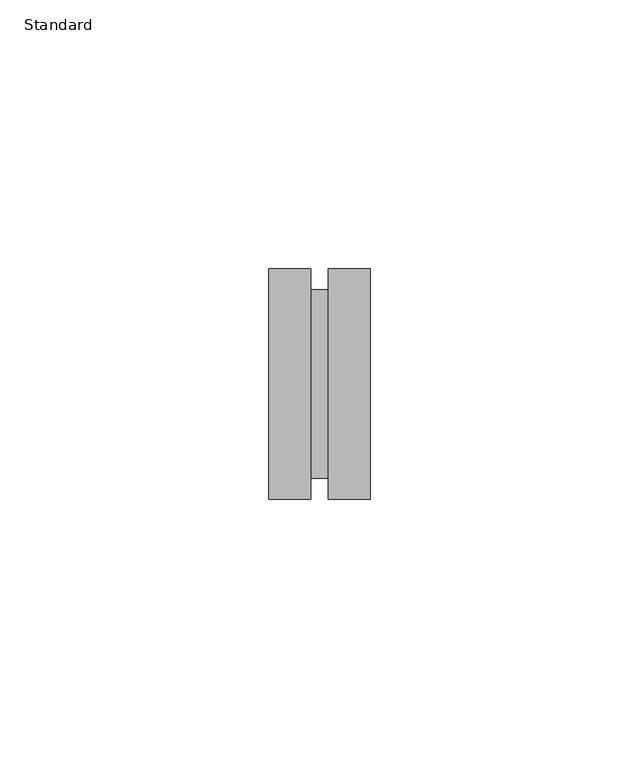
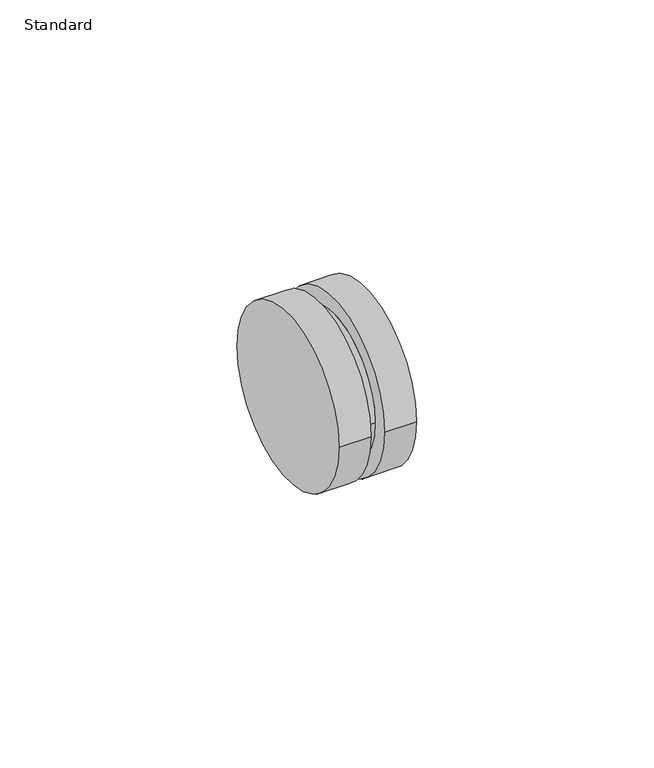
"""IFC4 building model written with IfcOpenShell, lengths in millimetres: pipe fitting geometry, Cople_Lubrizol_CPVC_FlowGuard_MX : Standard."""

import ifcopenshell
import ifcopenshell.guid

model = None  # the IFC model being written
_history = None  # IfcOwnerHistory: only IFC2X3 demands one
_inside = {}  # id of a spatial element -> (the spatial element, [elements in it])
_under = {}  # id of a project, library or spatial element -> (it, [spatial elements below it])
_declared = {}  # id of a project -> (the project, [libraries it declares])
_typed = {}  # id of a type object -> (the type object, [elements of that type])
_made_of = {}  # id of a material, layer set ... -> (it, [elements and type objects made of it])


def new_model(schema):
    """Start an empty IFC model of exactly this schema.

    Asked for "IFC4X3", IfcOpenShell would pick the latest addendum, in which some entities
    have other attributes; the version numbers below select the first issue.
    IFC2X3 requires an IfcOwnerHistory on every rooted entity: one is made here for all.
    """
    global model, _history
    if schema == "IFC4X3":
        model = ifcopenshell.file(schema_version=(4, 3, 0, 0))
    else:
        model = ifcopenshell.file(schema=schema)
    _inside.clear()
    _under.clear()
    _declared.clear()
    _typed.clear()
    _made_of.clear()
    _history = None
    if model.schema == "IFC2X3":
        org = make("IfcOrganization", Name="unknown")
        user = make(
            "IfcPersonAndOrganization",
            ThePerson=make("IfcPerson", FamilyName="unknown"),
            TheOrganization=org,
        )
        app = make(
            "IfcApplication",
            ApplicationDeveloper=org,
            Version="unknown",
            ApplicationFullName="unknown",
            ApplicationIdentifier="unknown",
        )
        _history = make(
            "IfcOwnerHistory",
            OwningUser=user,
            OwningApplication=app,
            ChangeAction="ADDED",
            CreationDate=0,
        )
    return model


def make(cls, **values):
    """One entity of the class cls with the attributes given. An attribute that is None is left unset."""
    return model.create_entity(
        cls, **{name: value for name, value in values.items() if value is not None}
    )


def rooted(cls, **values):
    """An entity with a GlobalId (a new one), such as an element, a storey or a relation."""
    return make(cls, GlobalId=ifcopenshell.guid.new(), OwnerHistory=_history, **values)


def si_unit(unit_type, name, prefix=None):
    """IfcSIUnit, for example si_unit("LENGTHUNIT", "METRE", prefix="MILLI")."""
    return make("IfcSIUnit", UnitType=unit_type, Prefix=prefix, Name=name)


def assignment(units):
    """IfcUnitAssignment: the units of a project."""
    return None if units is None else make("IfcUnitAssignment", Units=units)


def point(xyz):
    """IfcCartesianPoint."""
    return None if xyz is None else make("IfcCartesianPoint", Coordinates=xyz)


def direction(xyz):
    """IfcDirection."""
    return None if xyz is None else make("IfcDirection", DirectionRatios=xyz)


def frame(location, z_axis=None, x_axis=None):
    """IfcAxis2Placement3D, a coordinate frame: its origin and axes. An axis left out is left unset."""
    return make(
        "IfcAxis2Placement3D",
        Location=point(location),
        Axis=direction(z_axis),
        RefDirection=direction(x_axis),
    )


def origin():
    """The frame at (0, 0, 0) with its axes left unset."""
    return frame((0.0, 0.0, 0.0))


def place(relative_to, where):
    """IfcLocalPlacement: puts the frame where relative to a parent placement (None: the world)."""
    return make(
        "IfcLocalPlacement", PlacementRelTo=relative_to, RelativePlacement=where
    )


def context(
    kind, dimensions, precision=None, world=None, true_north=None, identifier=None
):
    """IfcGeometricRepresentationContext, for example the 3D "Model" context."""
    return make(
        "IfcGeometricRepresentationContext",
        ContextIdentifier=identifier,
        ContextType=kind,
        CoordinateSpaceDimension=dimensions,
        Precision=precision,
        WorldCoordinateSystem=world,
        TrueNorth=true_north,
    )


def project(units=None, contexts=None):
    """IfcProject with its units and contexts."""
    return rooted(
        "IfcProject",
        Name="project",
        RepresentationContexts=contexts,
        UnitsInContext=assignment(units),
    )


def spatial(cls, under=None, at=None, **own):
    """A site, building, storey or space (cls), placed at a placement, below another one or the project."""
    s = rooted(cls, ObjectPlacement=at, **own)
    if under is not None:
        _under.setdefault(under.id(), (under, []))[1].append(s)
    return s


def circle_curve(where, radius):
    """IfcCircle in the frame where."""
    return make("IfcCircle", Position=where, Radius=radius)


def shape(context_of_items, identifier, shape_type, items):
    """IfcShapeRepresentation: the items that make up one representation, for example the "Body"."""
    return make(
        "IfcShapeRepresentation",
        ContextOfItems=context_of_items,
        RepresentationIdentifier=identifier,
        RepresentationType=shape_type,
        Items=items,
    )


def source(mapping_origin, context_of_items, identifier, shape_type, items):
    """IfcRepresentationMap: a shape defined once, which mapped items show again and again."""
    return make(
        "IfcRepresentationMap",
        MappingOrigin=mapping_origin,
        MappedRepresentation=shape(context_of_items, identifier, shape_type, items),
    )


def transform(
    local_origin,
    x_axis=None,
    y_axis=None,
    z_axis=None,
    scale=None,
    scale2=None,
    scale3=None,
    uniform=True,
):
    """IfcCartesianTransformationOperator3D, or its non-uniform kind. x_axis, y_axis, z_axis: its Axis1, 2, 3."""
    if uniform:
        return make(
            "IfcCartesianTransformationOperator3D",
            Axis1=direction(x_axis),
            Axis2=direction(y_axis),
            LocalOrigin=point(local_origin),
            Scale=scale,
            Axis3=direction(z_axis),
        )
    return make(
        "IfcCartesianTransformationOperator3DnonUniform",
        Axis1=direction(x_axis),
        Axis2=direction(y_axis),
        LocalOrigin=point(local_origin),
        Scale=scale,
        Axis3=direction(z_axis),
        Scale2=scale2,
        Scale3=scale3,
    )


def mapped(mapping_source, mapping_target):
    """IfcMappedItem: shows the shape of a source again, moved by a transform."""
    return make(
        "IfcMappedItem", MappingSource=mapping_source, MappingTarget=mapping_target
    )


def made_of(thing, what):
    """Note that an element or type object is made of a material, layer set ...; save() writes the relation."""
    if what is not None:
        _made_of.setdefault(what.id(), (what, []))[1].append(thing)
    return thing


def element(
    cls,
    number,
    at=None,
    inside=None,
    cuts=None,
    type_object=None,
    material=None,
    context=None,
    identifier="Body",
    shape_type=None,
    held_by="IfcProductDefinitionShape",
    body=None,
    shapes=None,
    **own,
):
    """One element of the class cls, such as IfcWall. Its Tag is "e" and its number.

    at: its placement. inside: the storey or other place that contains it. cuts: it is an
    opening in that element (IfcRelVoidsElement). A single representation is given by context,
    identifier, shape_type and body (its items); several are given by shapes. held_by: the class
    of the entity that holds the representations. save() writes the other relations.
    """
    e = rooted(cls, Tag="e%d" % number, ObjectPlacement=at, **own)
    if body is not None:
        shapes = [shape(context, identifier, shape_type, body)]
    if shapes is not None:
        e.Representation = make(held_by, Representations=shapes)
    if inside is not None:
        _inside.setdefault(inside.id(), (inside, []))[1].append(e)
    if cuts is not None:
        rooted(
            "IfcRelVoidsElement", RelatingBuildingElement=cuts, RelatedOpeningElement=e
        )
    if type_object is not None:
        _typed.setdefault(type_object.id(), (type_object, []))[1].append(e)
    return made_of(e, material)


def aggregate(whole, parts):
    """IfcRelAggregates: a whole, such as a stair, and the parts it consists of."""
    return rooted("IfcRelAggregates", RelatingObject=whole, RelatedObjects=parts)


def save(model, path):
    """Write the relations noted so far, then the file.

    IfcRelAggregates (storeys below a building ...), IfcRelContainedInSpatialStructure (elements
    in a storey), IfcRelDefinesByType, IfcRelAssociatesMaterial and IfcRelDeclares: one each for
    every whole, place, type object, material and project.
    """
    for whole, parts in _under.values():
        aggregate(whole, parts)
    for where, things in _inside.values():
        rooted(
            "IfcRelContainedInSpatialStructure",
            RelatedElements=things,
            RelatingStructure=where,
        )
    for kind, things in _typed.values():
        rooted("IfcRelDefinesByType", RelatedObjects=things, RelatingType=kind)
    for what, things in _made_of.values():
        rooted("IfcRelAssociatesMaterial", RelatedObjects=things, RelatingMaterial=what)
    for by, libraries in _declared.values():
        rooted("IfcRelDeclares", RelatingContext=by, RelatedDefinitions=libraries)
    model.write(path)


def plane_surface(at):
    """IfcPlane: the flat surface through the origin of the frame at, square to its z axis."""
    return make("IfcPlane", Position=at)


def cylinder_surface(at, radius):
    """IfcCylindricalSurface: all points at the distance radius from the z axis of the frame at."""
    return make("IfcCylindricalSurface", Position=at, Radius=radius)


def advanced_brep(points, edges, surfaces, faces):
    """IfcAdvancedBrep: a solid bounded by faces that lie on surfaces and meet in shared edges.

    An edge is (start, end): straight between two places in points (the first is 0);
    or (start, end, curve); or (start, end, curve, False) where it runs against its curve.
    A face is (place in surfaces, loops), or (place, loops, False) where it looks against
    its surface's normal. A loop lists edges by number (the first is 1), with a minus sign
    where the edge is run from its end to its start. The first loop is the outer one.
    """
    corners = [point(p) for p in points]
    vertices = [make("IfcVertexPoint", VertexGeometry=c) for c in corners]
    made = []
    for start, end, *more in edges:
        made.append(
            make(
                "IfcEdgeCurve",
                EdgeStart=vertices[start],
                EdgeEnd=vertices[end],
                EdgeGeometry=more[0] if more else make("IfcPolyline", Points=[corners[start], corners[end]]),
                SameSense=more[1] if len(more) > 1 else True,
            )
        )
    hull = []
    for where, loops, *sense in faces:
        bounds = []
        for j, loop in enumerate(loops):
            ring = [make("IfcOrientedEdge", EdgeElement=made[abs(k) - 1], Orientation=k > 0) for k in loop]
            bounds.append(
                make(
                    "IfcFaceOuterBound" if j == 0 else "IfcFaceBound",
                    Bound=make("IfcEdgeLoop", EdgeList=ring),
                    Orientation=True,
                )
            )
        hull.append(make("IfcAdvancedFace", Bounds=bounds, FaceSurface=surfaces[where], SameSense=sense[0] if sense else True))
    return make("IfcAdvancedBrep", Outer=make("IfcClosedShell", CfsFaces=hull))


def standard_a0c500f7(model_context):
    return source(origin(), model_context, "Body", "AdvancedBrep", [
        advanced_brep(
        [(-9.4558594, -21.4871094, 0.0), (-9.4558594, 21.4871094, 0.0), (-1.6390625, -21.4871094, 0.0), (-1.6390625, 21.4871094, 0.0), (-1.6390625, -17.5640625, 0.0), (-1.6390625, 17.5640625, 0.0), (1.6390625, -17.5640625, 0.0), (1.6390625, 17.5640625, 0.0), (1.6390625, -21.4871094, 0.0), (1.6390625, 21.4871094, 0.0), (9.4558594, -21.4871094, 0.0), (9.4558594, 21.4871094, 0.0)],
        [
            (0, 1, circle_curve(frame((-9.4558594, 0.0, 0.0), z_axis=(-1.0, 0.0, 0.0), x_axis=(0.0, 1.0, 0.0)), 21.4871094)),
            (1, 0, circle_curve(frame((-9.4558594, 0.0, 0.0), z_axis=(-1.0, 0.0, 0.0), x_axis=(0.0, 1.0, 0.0)), 21.4871094)),
            (2, 3, circle_curve(frame((-1.6390625, 0.0, 0.0), z_axis=(1.0, 0.0, 0.0), x_axis=(0.0, 1.0, 0.0)), 21.4871094)),
            (3, 2, circle_curve(frame((-1.6390625, 0.0, 0.0), z_axis=(1.0, 0.0, 0.0), x_axis=(0.0, 1.0, 0.0)), 21.4871094)),
            (4, 5, circle_curve(frame((-1.6390625, 0.0, 0.0), z_axis=(-1.0, 0.0, 0.0), x_axis=(0.0, 1.0, 0.0)), 17.5640625)),
            (5, 4, circle_curve(frame((-1.6390625, 0.0, 0.0), z_axis=(-1.0, 0.0, 0.0), x_axis=(0.0, 1.0, 0.0)), 17.5640625)),
            (0, 2),
            (3, 1),
            (4, 6),
            (6, 7, circle_curve(frame((1.6390625, 0.0, 0.0), z_axis=(-1.0, 0.0, 0.0), x_axis=(0.0, 1.0, 0.0)), 17.5640625)),
            (7, 5),
            (7, 6, circle_curve(frame((1.6390625, 0.0, 0.0), z_axis=(-1.0, 0.0, 0.0), x_axis=(0.0, 1.0, 0.0)), 17.5640625)),
            (8, 9, circle_curve(frame((1.6390625, 0.0, 0.0), z_axis=(-1.0, 0.0, 0.0), x_axis=(0.0, 1.0, 0.0)), 21.4871094)),
            (9, 8, circle_curve(frame((1.6390625, 0.0, 0.0), z_axis=(-1.0, 0.0, 0.0), x_axis=(0.0, 1.0, 0.0)), 21.4871094)),
            (10, 11, circle_curve(frame((9.4558594, 0.0, 0.0), z_axis=(1.0, 0.0, 0.0), x_axis=(0.0, 1.0, 0.0)), 21.4871094)),
            (11, 10, circle_curve(frame((9.4558594, 0.0, 0.0), z_axis=(1.0, 0.0, 0.0), x_axis=(0.0, 1.0, 0.0)), 21.4871094)),
            (8, 10),
            (11, 9),
        ],
        [
            plane_surface(frame((-9.4558594, 0.0, 0.0), z_axis=(-1.0, 0.0, 0.0), x_axis=(0.0, 0.0, 1.0))),
            plane_surface(frame((-1.6390625, 0.0, 0.0), z_axis=(1.0, 0.0, 0.0), x_axis=(0.0, 0.0, 1.0))),
            cylinder_surface(frame((-9.4558594, 0.0, 0.0), z_axis=(-1.0, 0.0, 0.0), x_axis=(0.0, 1.0, 0.0)), 21.4871094),
            cylinder_surface(frame((-1.6390625, 0.0, 0.0), z_axis=(-1.0, 0.0, 0.0), x_axis=(0.0, 1.0, 0.0)), 17.5640625),
            plane_surface(frame((1.6390625, 0.0, 0.0), z_axis=(-1.0, 0.0, 0.0), x_axis=(0.0, 0.0, 1.0))),
            plane_surface(frame((9.4558594, 0.0, 0.0), z_axis=(1.0, 0.0, 0.0), x_axis=(0.0, 0.0, 1.0))),
            cylinder_surface(frame((1.6390625, 0.0, 0.0), z_axis=(-1.0, 0.0, 0.0), x_axis=(0.0, 1.0, 0.0)), 21.4871094),
        ],
        [
            (0, [[1, 2]]),
            (1, [[3, 4], [5, 6]]),
            (2, [[-1, 7, -4, 8]]),
            (2, [[-2, -8, -3, -7]]),
            (3, [[9, 10, 11, -5]]),
            (3, [[-9, -6, -11, 12]]),
            (4, [[13, 14], [-10, -12]]),
            (5, [[15, 16]]),
            (6, [[-13, 17, -16, 18]]),
            (6, [[-14, -18, -15, -17]]),
        ],
    ),
    ])


if __name__ == "__main__":
    model = new_model("IFC4")
    model_context = context("Model", 3, world=origin())
    ifc_project = project(units=[si_unit("LENGTHUNIT", "METRE", prefix="MILLI")], contexts=[model_context])
    site = spatial("IfcSite", under=ifc_project)
    building = spatial("IfcBuilding", under=site)
    placement = place(None, origin())
    standard_shape = standard_a0c500f7(model_context)
    element("IfcPipeFitting", 1, ObjectType="Cople_Lubrizol_CPVC_FlowGuard_MX : Standard", at=placement, inside=building, context=model_context, shape_type="MappedRepresentation", body=[
        mapped(standard_shape, transform((0.0, 0.0, 0.0), x_axis=(1.0, 0.0, 0.0), y_axis=(0.0, 1.0, 0.0), z_axis=(0.0, 0.0, 1.0))),
    ])
    save(model, "model.ifc")
